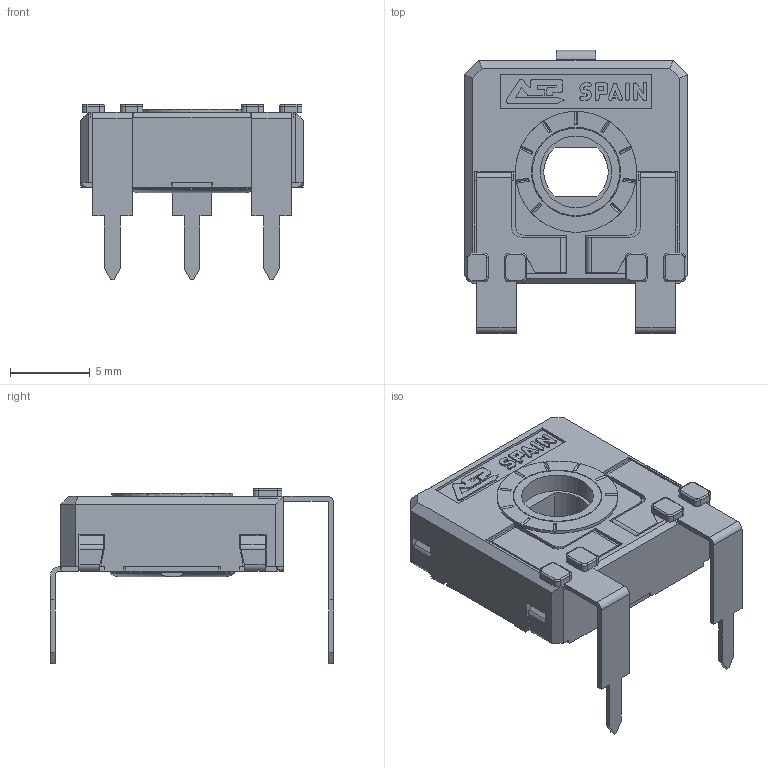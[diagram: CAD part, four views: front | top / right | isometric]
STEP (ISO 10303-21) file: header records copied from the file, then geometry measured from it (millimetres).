
FILE_DESCRIPTION(/* description */ (''),/* implementation_level */ '2;1');
FILE_NAME(/* name */ 'C:\Users\CEM\Desktop\ENVIAR\TRANSICION 3D CATALOGOS\RS14NV17,5.stp',/* time_stamp */ '2025-12-10T11:09:37+01:00',/* author */ ('CEM'),/* organization */ (''),/* preprocessor_version */ 'ST-DEVELOPER v16.13',/* originating_system */ 'Autodesk Inventor 2018',/* authorisation */ '');
FILE_SCHEMA (('AUTOMOTIVE_DESIGN { 1 0 10303 214 3 1 1 }'));
Length unit declared in the file: millimetre
Products named in the file (1): CARCASA CA14 PGA
Bounding box: 14 x 17.8 x 11 mm (x, y, z)
Volume: 530.4 mm3; surface area: 1500 mm2
Topology: 1 solids, 1 shells, 667 faces, 1876 edges, 1206 vertices
Faces by surface type: plane 493, cylinder 137, torus 23, bspline 8, cone 6
Full cylindrical faces by diameter (mm): 4.5 x1, 5.5 x1, 5.6 x1, 5.752 x1, 6.8 x1, 7.6 x1
Entity records: 21583 total; most frequent: CARTESIAN_POINT 3944, ORIENTED_EDGE 3724, DIRECTION 3514, EDGE_CURVE 1862, LINE 1474, VECTOR 1474, VERTEX_POINT 1202, AXIS2_PLACEMENT_3D 1020
